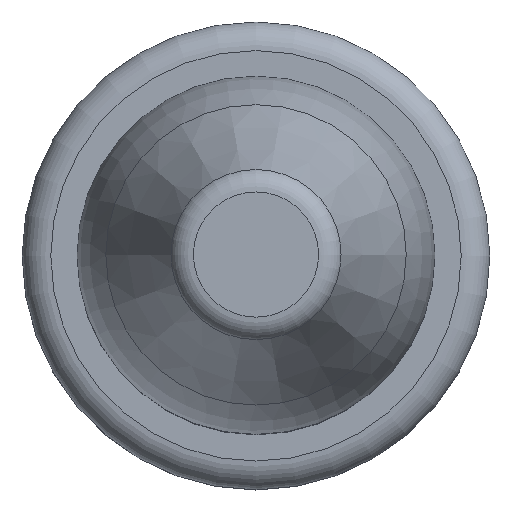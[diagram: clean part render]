
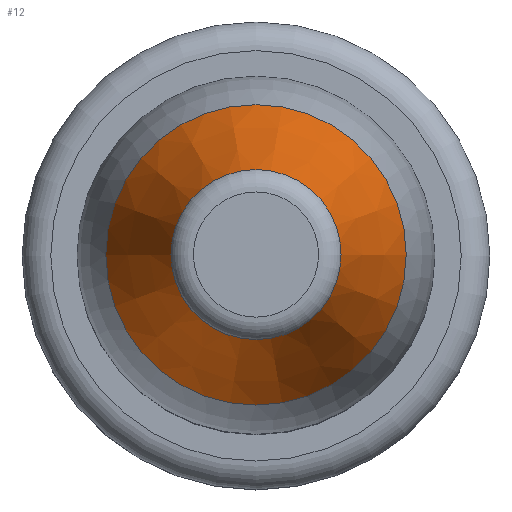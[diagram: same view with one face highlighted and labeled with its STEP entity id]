
A CAD part, top view. The second image highlights one B-rep face of the part: STEP entity #12.
In plain terms, the highlighted conical face has half-angle 20 degrees and reference radius 3.997 mm.
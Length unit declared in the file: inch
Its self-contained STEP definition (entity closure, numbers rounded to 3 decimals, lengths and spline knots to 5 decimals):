
#12 = ADVANCED_FACE ( 'NONE', ( #96, #182 ), #206, .T. ) ;
#13 = VERTEX_POINT ( 'NONE', #107 ) ;
#55 = ORIENTED_EDGE ( 'NONE', *, *, #147, .T. ) ;
#60 = EDGE_CURVE ( 'NONE', #13, #13, #113, .T. ) ;
#61 = DIRECTION ( 'NONE',  ( -1., 0., 0. ) ) ;
#80 = CARTESIAN_POINT ( 'NONE',  ( 0., 0., 0.74601 ) ) ;
#84 = CARTESIAN_POINT ( 'NONE',  ( 0., 0., 0.93355 ) ) ;
#92 = CARTESIAN_POINT ( 'NONE',  ( 0.15735, 0., 0.74601 ) ) ;
#96 = FACE_BOUND ( 'NONE', #123, .T. ) ;
#107 = CARTESIAN_POINT ( 'NONE',  ( 0.08909, 0., 0.93355 ) ) ;
#109 = AXIS2_PLACEMENT_3D ( 'NONE', #84, #136, #140 ) ;
#113 = CIRCLE ( 'NONE', #109, 0.08909 ) ;
#121 = CIRCLE ( 'NONE', #153, 0.15735 ) ;
#123 = EDGE_LOOP ( 'NONE', ( #154 ) ) ;
#134 = CARTESIAN_POINT ( 'NONE',  ( 0., 0., 0.74601 ) ) ;
#136 = DIRECTION ( 'NONE',  ( 0., 0., 1. ) ) ;
#140 = DIRECTION ( 'NONE',  ( 1., 0., 0. ) ) ;
#147 = EDGE_CURVE ( 'NONE', #179, #179, #121, .T. ) ;
#151 = EDGE_LOOP ( 'NONE', ( #55 ) ) ;
#153 = AXIS2_PLACEMENT_3D ( 'NONE', #80, #208, #188 ) ;
#154 = ORIENTED_EDGE ( 'NONE', *, *, #60, .F. ) ;
#179 = VERTEX_POINT ( 'NONE', #92 ) ;
#182 = FACE_OUTER_BOUND ( 'NONE', #151, .T. ) ;
#188 = DIRECTION ( 'NONE',  ( 1., 0., 0. ) ) ;
#199 = AXIS2_PLACEMENT_3D ( 'NONE', #134, #220, #61 ) ;
#206 = CONICAL_SURFACE ( 'NONE', #199, 0.15735, 0.349 ) ;
#208 = DIRECTION ( 'NONE',  ( 0., 0., 1. ) ) ;
#220 = DIRECTION ( 'NONE',  ( 0., 0., -1. ) ) ;
